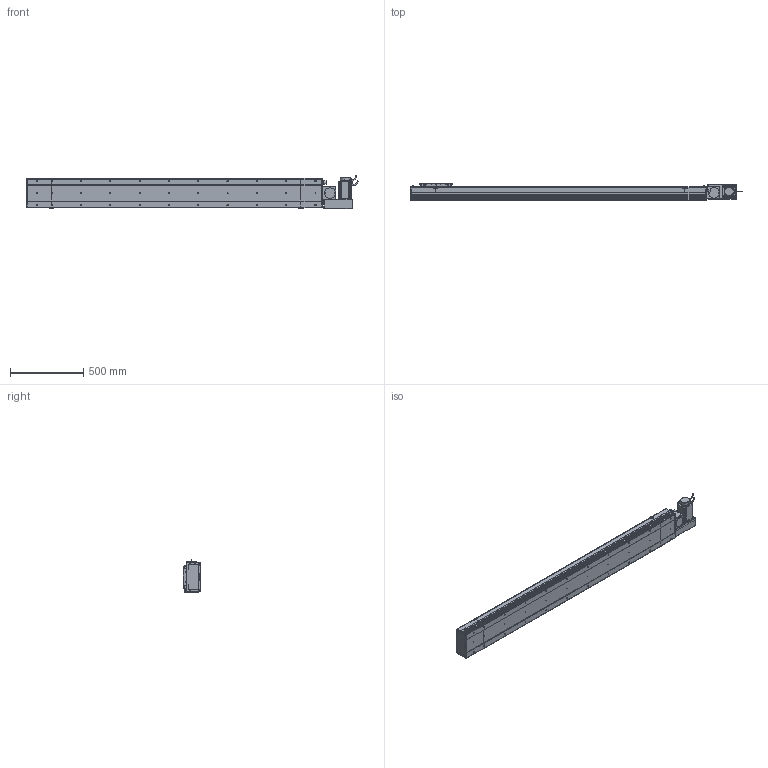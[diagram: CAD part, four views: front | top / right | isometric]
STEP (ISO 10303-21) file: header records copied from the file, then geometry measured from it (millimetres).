
FILE_DESCRIPTION (( 'STEP AP214' ), '1' );
FILE_NAME ('D20 CBH RH S1700.STEP', '2010-06-30T09:39:02', ( 'Conseil Régional Haute-Normandie' ), ( 'Conseil Régional Haute-Normandie' ), 'SwSTEP 2.0', 'SolidWorks 2010', '' );
FILE_SCHEMA (( 'AUTOMOTIVE_DESIGN' ));
Length unit declared in the file: millimetre
Products named in the file (31): codeur 90BLDC125-640; Corp D20 S1700_Default; Chariot D20_Default; Support Chariot D20_Default; Glissiere_Default; vis M5 L47_Default; Cache Support Moteur RH_Default; ecrou_Default; Conecteur_Default; Conecteur2_Default; vis M5 L30_Default; vis M5 L15_Default; Plaque De Serrage D20_Default; Plaque de Bout Tail D20_Default; Couvercle_Default; Tail D20+100_Default; Couvercle S1700_Default; Corp Tail D20+100_Default; Corp S1700_Default; Head D20 RH_Default; D20 CBH RH S1700; Plaque de Bout Head D20 RH_Default; Couvercle RH_Default; Corp Tail D20 RH_Default; Support moteur RH_Default; Rondelle Cache D20 RH_Default; Plaque De Serrage D20 RH_Default; corps 90BLDC125A-640; avant 90BLDC125A-640; Moteur motionking 90BLDC125A-640
Assembly tree (68 placements, depth 4):
  D20 CBH RH S1700
    Head D20 RH_Default
      ecrou_Default  x4
      vis M5 L15_Default  x14
      Moteur motionking 90BLDC125A-640
        Conecteur2_Default
        corps 90BLDC125A-640
        codeur 90BLDC125-640
        avant 90BLDC125A-640
        Conecteur_Default
      Support moteur RH_Default
      Rondelle Cache D20 RH_Default  x3
      vis M5 L47_Default  x4
      vis M5 L30_Default  x4
      Cache Support Moteur RH_Default
      Corp Tail D20 RH_Default
      Plaque De Serrage D20 RH_Default
      Couvercle RH_Default
      Plaque de Bout Head D20 RH_Default
    Corp D20 S1700_Default
      Couvercle S1700_Default
      Corp S1700_Default
    Tail D20+100_Default
      vis M5 L15_Default  x6
      Couvercle_Default
      Plaque de Bout Tail D20_Default
      Plaque De Serrage D20_Default
      Corp Tail D20+100_Default
    Chariot D20_Default
      Glissiere_Default
      vis M5 L15_Default  x8
      Chariot D20_Default
      Support Chariot D20_Default
Bounding box: 2265.45 x 119.5 x 229.7 mm (x, y, z)
Volume: 15028616.9 mm3; surface area: 2959615 mm2
Topology: 105 solids, 105 shells, 3811 faces, 9498 edges, 6166 vertices
Faces by surface type: plane 2128, bspline 806, cylinder 706, torus 95, cone 72, sphere 4
Entity records: 159350 total; most frequent: CARTESIAN_POINT 82307, ORIENTED_EDGE 15264, DIRECTION 11590, EDGE_CURVE 7632, VERTEX_POINT 5050, LINE 4948, VECTOR 4948, AXIS2_PLACEMENT_3D 3321
